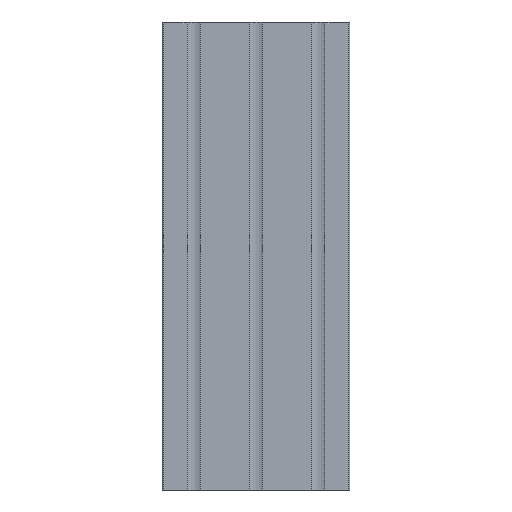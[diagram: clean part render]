
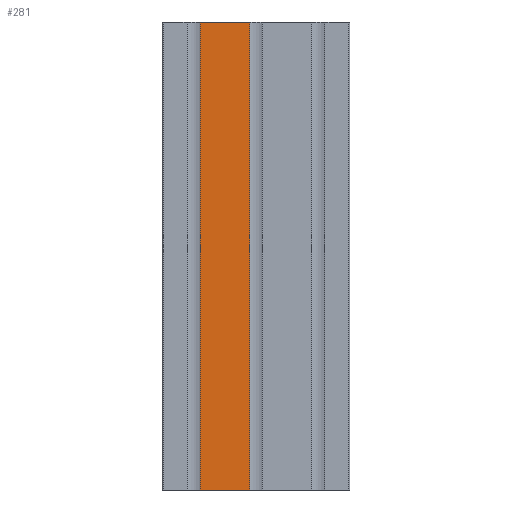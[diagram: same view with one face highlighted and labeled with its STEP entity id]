
A CAD part, front view. The second image highlights one B-rep face of the part: STEP entity #281.
In plain terms, the highlighted planar face has unit normal (0, -1, 0).
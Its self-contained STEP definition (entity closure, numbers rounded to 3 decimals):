
#72 = DIRECTION ( 'NONE',  ( 1., 0., 0. ) ) ;
#97 = AXIS2_PLACEMENT_3D ( 'NONE', #217, #4358, #1707 ) ;
#119 = VERTEX_POINT ( 'NONE', #4833 ) ;
#217 = CARTESIAN_POINT ( 'NONE',  ( 2067.681, 1269.106, 300. ) ) ;
#281 = ADVANCED_FACE ( 'NONE', ( #2720 ), #4732, .F. ) ;
#328 = VECTOR ( 'NONE', #3419, 1000. ) ;
#439 = EDGE_LOOP ( 'NONE', ( #2033, #3476, #1880, #1903 ) ) ;
#448 = EDGE_CURVE ( 'NONE', #4368, #4280, #493, .T. ) ;
#493 = LINE ( 'NONE', #3853, #1380 ) ;
#499 = VECTOR ( 'NONE', #1643, 1000. ) ;
#1155 = CARTESIAN_POINT ( 'NONE',  ( 2067.681, 1269.106, 300. ) ) ;
#1378 = CARTESIAN_POINT ( 'NONE',  ( 2099.381, 1269.106, 300. ) ) ;
#1380 = VECTOR ( 'NONE', #72, 1000. ) ;
#1643 = DIRECTION ( 'NONE',  ( 1., 0., 0. ) ) ;
#1651 = VERTEX_POINT ( 'NONE', #4474 ) ;
#1707 = DIRECTION ( 'NONE',  ( 0., 0., 1. ) ) ;
#1748 = DIRECTION ( 'NONE',  ( 0., 0., -1. ) ) ;
#1860 = EDGE_CURVE ( 'NONE', #119, #1651, #2410, .T. ) ;
#1880 = ORIENTED_EDGE ( 'NONE', *, *, #1860, .F. ) ;
#1903 = ORIENTED_EDGE ( 'NONE', *, *, #2562, .T. ) ;
#2018 = CARTESIAN_POINT ( 'NONE',  ( 2067.681, 1269.106, 300. ) ) ;
#2033 = ORIENTED_EDGE ( 'NONE', *, *, #448, .T. ) ;
#2045 = CARTESIAN_POINT ( 'NONE',  ( 2099.381, 1269.106, 0. ) ) ;
#2122 = CARTESIAN_POINT ( 'NONE',  ( 2067.681, 1269.106, 0. ) ) ;
#2354 = LINE ( 'NONE', #1155, #328 ) ;
#2410 = LINE ( 'NONE', #2018, #499 ) ;
#2562 = EDGE_CURVE ( 'NONE', #119, #4368, #2354, .T. ) ;
#2720 = FACE_OUTER_BOUND ( 'NONE', #439, .T. ) ;
#3419 = DIRECTION ( 'NONE',  ( 0., 0., -1. ) ) ;
#3452 = LINE ( 'NONE', #1378, #4329 ) ;
#3476 = ORIENTED_EDGE ( 'NONE', *, *, #3641, .F. ) ;
#3641 = EDGE_CURVE ( 'NONE', #1651, #4280, #3452, .T. ) ;
#3853 = CARTESIAN_POINT ( 'NONE',  ( 2067.681, 1269.106, 0. ) ) ;
#4280 = VERTEX_POINT ( 'NONE', #2045 ) ;
#4329 = VECTOR ( 'NONE', #1748, 1000. ) ;
#4358 = DIRECTION ( 'NONE',  ( 0., 1., 0. ) ) ;
#4368 = VERTEX_POINT ( 'NONE', #2122 ) ;
#4474 = CARTESIAN_POINT ( 'NONE',  ( 2099.381, 1269.106, 300. ) ) ;
#4732 = PLANE ( 'NONE',  #97 ) ;
#4833 = CARTESIAN_POINT ( 'NONE',  ( 2067.681, 1269.106, 300. ) ) ;
